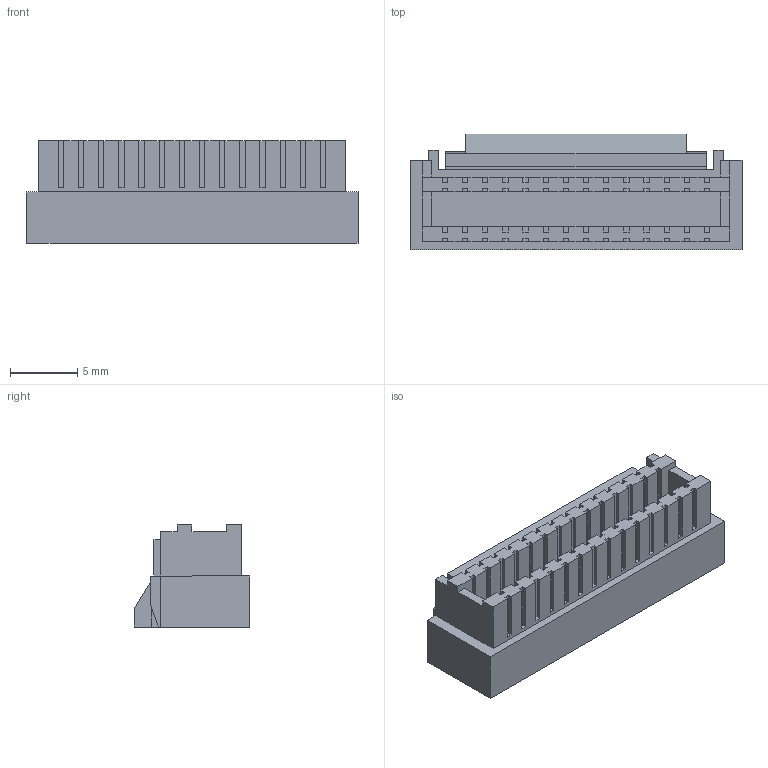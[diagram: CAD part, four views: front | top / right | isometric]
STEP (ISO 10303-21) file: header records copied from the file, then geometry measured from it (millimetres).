
FILE_DESCRIPTION (( 'STEP AP214' ), '1' );
FILE_NAME ('ZPDR-28V-S.STEP', '2011-12-16T07:17:57', ( 'root' ), ( 'Hewlett-Packard Company' ), 'SwSTEP 2.0', 'SolidWorks 2009', '' );
FILE_SCHEMA (( 'AUTOMOTIVE_DESIGN' ));
Length unit declared in the file: millimetre
Products named in the file (1): ZPDR-28V-S
Bounding box: 24.7 x 8.6 x 7.6 mm (x, y, z)
Volume: 926.2 mm3; surface area: 1437.9 mm2
Topology: 1 solids, 1 shells, 415 faces, 1150 edges, 766 vertices
Faces by surface type: plane 415
Entity records: 13002 total; most frequent: CARTESIAN_POINT 2332, ORIENTED_EDGE 2300, DIRECTION 1982, EDGE_CURVE 1150, VECTOR 1150, LINE 1150, VERTEX_POINT 766, EDGE_LOOP 444
